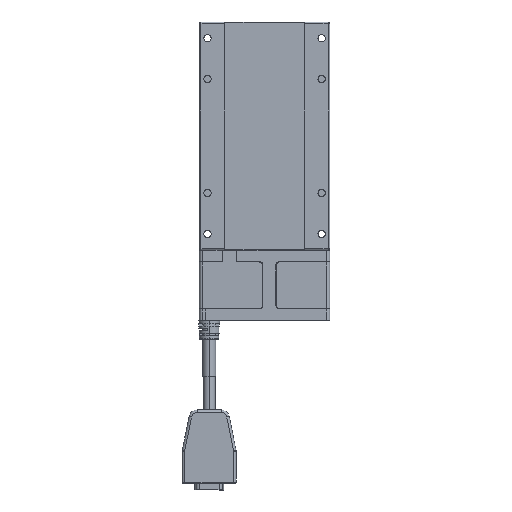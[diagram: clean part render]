
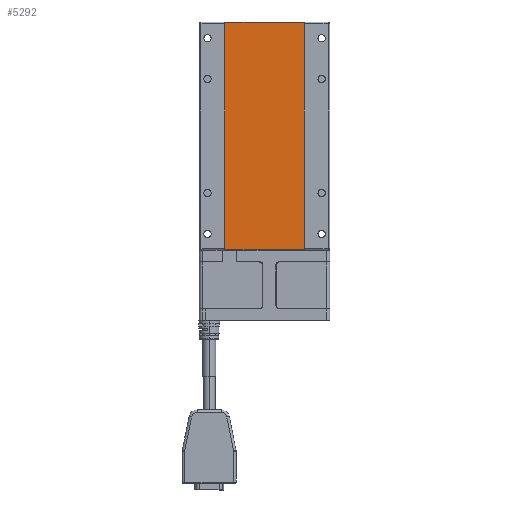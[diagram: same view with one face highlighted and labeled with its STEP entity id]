
A CAD part, front view. The second image highlights one B-rep face of the part: STEP entity #5292.
In plain terms, the highlighted planar face has unit normal (0, -1, 0).
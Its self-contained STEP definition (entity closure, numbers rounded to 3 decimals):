
#103 = DIRECTION ( 'NONE',  ( 1., 0., 0. ) ) ;
#675 = CARTESIAN_POINT ( 'NONE',  ( 24.3, 0.3, -139.8 ) ) ;
#1694 = DIRECTION ( 'NONE',  ( 0., 0., 1. ) ) ;
#5292 = ADVANCED_FACE ( 'NONE', ( #27786 ), #47287, .F. ) ;
#7704 = LINE ( 'NONE', #44972, #75712 ) ;
#12967 = CARTESIAN_POINT ( 'NONE',  ( 24.3, 0.3, -0.2 ) ) ;
#21434 = EDGE_LOOP ( 'NONE', ( #29898, #50873, #46805, #40091 ) ) ;
#22197 = CARTESIAN_POINT ( 'NONE',  ( -24.3, 0.3, -139.8 ) ) ;
#23155 = CARTESIAN_POINT ( 'NONE',  ( 24.3, 0.3, -139.8 ) ) ;
#23435 = EDGE_CURVE ( 'NONE', #54521, #60999, #88150, .T. ) ;
#25219 = EDGE_CURVE ( 'NONE', #31616, #83728, #63166, .T. ) ;
#27786 = FACE_OUTER_BOUND ( 'NONE', #21434, .T. ) ;
#28719 = CARTESIAN_POINT ( 'NONE',  ( 24.3, 0.3, -0.2 ) ) ;
#29898 = ORIENTED_EDGE ( 'NONE', *, *, #25219, .T. ) ;
#31616 = VERTEX_POINT ( 'NONE', #23155 ) ;
#34024 = AXIS2_PLACEMENT_3D ( 'NONE', #80070, #62793, #63948 ) ;
#34591 = VECTOR ( 'NONE', #1694, 1000. ) ;
#37877 = VECTOR ( 'NONE', #72642, 1000. ) ;
#40091 = ORIENTED_EDGE ( 'NONE', *, *, #40911, .T. ) ;
#40911 = EDGE_CURVE ( 'NONE', #60999, #31616, #89139, .T. ) ;
#44431 = EDGE_CURVE ( 'NONE', #83728, #54521, #7704, .T. ) ;
#44972 = CARTESIAN_POINT ( 'NONE',  ( 24.3, 0.3, -0.2 ) ) ;
#46805 = ORIENTED_EDGE ( 'NONE', *, *, #23435, .T. ) ;
#47287 = PLANE ( 'NONE',  #34024 ) ;
#50873 = ORIENTED_EDGE ( 'NONE', *, *, #44431, .T. ) ;
#54521 = VERTEX_POINT ( 'NONE', #98148 ) ;
#55103 = VECTOR ( 'NONE', #103, 1000. ) ;
#60514 = DIRECTION ( 'NONE',  ( -1., 0., 0. ) ) ;
#60999 = VERTEX_POINT ( 'NONE', #22197 ) ;
#62793 = DIRECTION ( 'NONE',  ( 0., 1., 0. ) ) ;
#63166 = LINE ( 'NONE', #28719, #34591 ) ;
#63948 = DIRECTION ( 'NONE',  ( 1., 0., 0. ) ) ;
#72642 = DIRECTION ( 'NONE',  ( 0., 0., -1. ) ) ;
#75712 = VECTOR ( 'NONE', #60514, 1000. ) ;
#79555 = CARTESIAN_POINT ( 'NONE',  ( -24.3, 0.3, -0.2 ) ) ;
#80070 = CARTESIAN_POINT ( 'NONE',  ( 24.3, 0.3, -139.8 ) ) ;
#83728 = VERTEX_POINT ( 'NONE', #12967 ) ;
#88150 = LINE ( 'NONE', #79555, #37877 ) ;
#89139 = LINE ( 'NONE', #675, #55103 ) ;
#98148 = CARTESIAN_POINT ( 'NONE',  ( -24.3, 0.3, -0.2 ) ) ;
